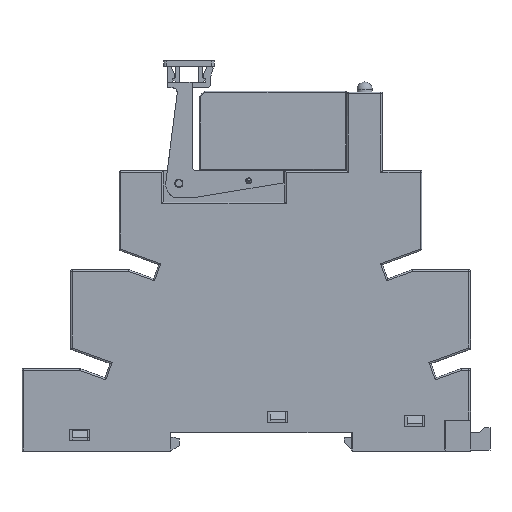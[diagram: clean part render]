
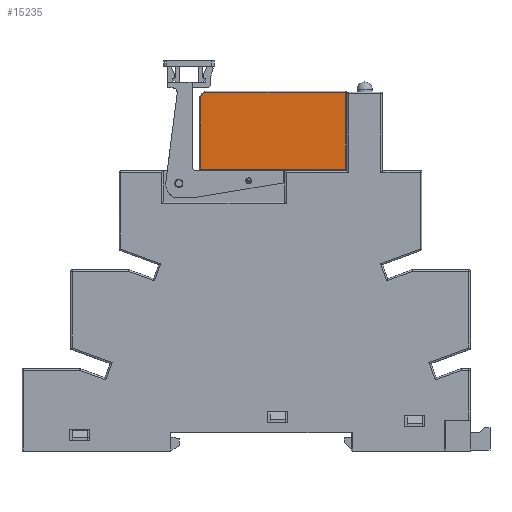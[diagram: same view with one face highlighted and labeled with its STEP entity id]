
A CAD part, left-side view. The second image highlights one B-rep face of the part: STEP entity #15235.
In plain terms, the highlighted planar face has unit normal (-1, 0, 0).
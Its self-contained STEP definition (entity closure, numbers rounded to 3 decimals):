
#2233 = FACE_OUTER_BOUND ( 'NONE', #49821, .T. ) ;
#2501 = CARTESIAN_POINT ( 'NONE',  ( 0.7, 28.61, 55.65 ) ) ;
#2987 = DIRECTION ( 'NONE',  ( 0., 0., -1. ) ) ;
#3396 = CARTESIAN_POINT ( 'NONE',  ( 0.7, 57.41, 55.65 ) ) ;
#3818 = LINE ( 'NONE', #12990, #56747 ) ;
#3961 = DIRECTION ( 'NONE',  ( -1., 0., 0. ) ) ;
#6379 = LINE ( 'NONE', #55479, #41591 ) ;
#6890 = EDGE_CURVE ( 'NONE', #24209, #33622, #6379, .T. ) ;
#7636 = DIRECTION ( 'NONE',  ( 0., -1., 0. ) ) ;
#11518 = CARTESIAN_POINT ( 'NONE',  ( 0.7, 57.21, 55.65 ) ) ;
#11852 = ORIENTED_EDGE ( 'NONE', *, *, #6890, .T. ) ;
#12990 = CARTESIAN_POINT ( 'NONE',  ( 0.7, 56.41, 70.85 ) ) ;
#14265 = CARTESIAN_POINT ( 'NONE',  ( 0.7, 56.327, 70.85 ) ) ;
#15225 = DIRECTION ( 'NONE',  ( 0., 0.707, -0.707 ) ) ;
#15235 = ADVANCED_FACE ( 'NONE', ( #2233 ), #33056, .T. ) ;
#17101 = CARTESIAN_POINT ( 'NONE',  ( 0.7, 57.41, 55.65 ) ) ;
#17737 = ORIENTED_EDGE ( 'NONE', *, *, #23937, .T. ) ;
#21769 = DIRECTION ( 'NONE',  ( 0., 1., 0. ) ) ;
#22415 = VECTOR ( 'NONE', #2987, 1000. ) ;
#22837 = ORIENTED_EDGE ( 'NONE', *, *, #44997, .T. ) ;
#23937 = EDGE_CURVE ( 'NONE', #42815, #24209, #3818, .T. ) ;
#23986 = LINE ( 'NONE', #2501, #26213 ) ;
#24209 = VERTEX_POINT ( 'NONE', #14265 ) ;
#25693 = ORIENTED_EDGE ( 'NONE', *, *, #42380, .T. ) ;
#26213 = VECTOR ( 'NONE', #51588, 1000. ) ;
#26960 = CARTESIAN_POINT ( 'NONE',  ( 0.7, 28.61, 55.65 ) ) ;
#26995 = CARTESIAN_POINT ( 'NONE',  ( 0.7, 28.61, 70.85 ) ) ;
#27380 = CARTESIAN_POINT ( 'NONE',  ( 0.7, 57.21, 55.65 ) ) ;
#32473 = VECTOR ( 'NONE', #7636, 1000. ) ;
#33056 = PLANE ( 'NONE',  #39787 ) ;
#33622 = VERTEX_POINT ( 'NONE', #39392 ) ;
#34359 = ORIENTED_EDGE ( 'NONE', *, *, #44403, .T. ) ;
#35390 = DIRECTION ( 'NONE',  ( 0., 0., -1. ) ) ;
#37360 = VERTEX_POINT ( 'NONE', #26960 ) ;
#39392 = CARTESIAN_POINT ( 'NONE',  ( 0.7, 57.21, 69.967 ) ) ;
#39787 = AXIS2_PLACEMENT_3D ( 'NONE', #3396, #3961, #35390 ) ;
#41591 = VECTOR ( 'NONE', #15225, 1000. ) ;
#42380 = EDGE_CURVE ( 'NONE', #50079, #37360, #43505, .T. ) ;
#42815 = VERTEX_POINT ( 'NONE', #26995 ) ;
#43236 = LINE ( 'NONE', #11518, #22415 ) ;
#43505 = LINE ( 'NONE', #17101, #32473 ) ;
#44403 = EDGE_CURVE ( 'NONE', #33622, #50079, #43236, .T. ) ;
#44997 = EDGE_CURVE ( 'NONE', #37360, #42815, #23986, .T. ) ;
#49821 = EDGE_LOOP ( 'NONE', ( #17737, #11852, #34359, #25693, #22837 ) ) ;
#50079 = VERTEX_POINT ( 'NONE', #27380 ) ;
#51588 = DIRECTION ( 'NONE',  ( 0., 0., 1. ) ) ;
#55479 = CARTESIAN_POINT ( 'NONE',  ( 0.7, 64.469, 62.709 ) ) ;
#56747 = VECTOR ( 'NONE', #21769, 1000. ) ;
